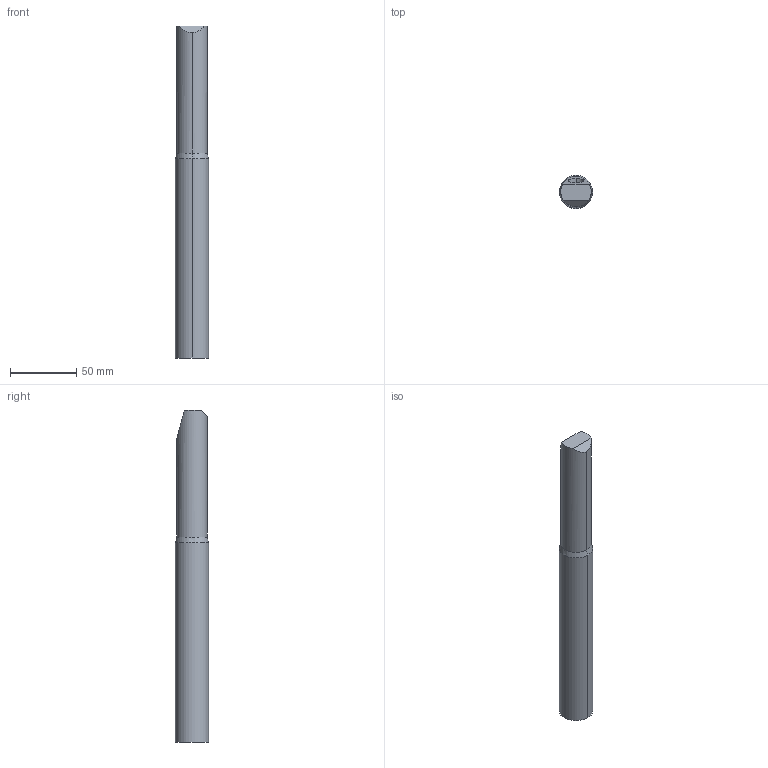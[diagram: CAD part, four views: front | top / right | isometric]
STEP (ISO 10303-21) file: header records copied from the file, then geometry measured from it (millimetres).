
FILE_DESCRIPTION( (''), '2;1');
FILE_NAME ('SY-2080-04_TH-25251-B.stp','2022-04-09T08:52:20',(''),(''),'spGate 18.9.3 (****-****-****-****)','','');
FILE_SCHEMA (('AUTOMOTIVE_DESIGN'));
Length unit declared in the file: millimetre
Products named in the file (2): Assembly; SY-2080-04_TH-25251-B-prt0
Assembly tree (1 placements, depth 2):
  Assembly
    SY-2080-04_TH-25251-B-prt0
Bounding box: 25 x 25 x 250 mm (x, y, z)
Volume: 96428.7 mm3; surface area: 26981.5 mm2
Topology: 1 solids, 1 shells, 25 faces, 54 edges, 30 vertices
Faces by surface type: bspline 12, cylinder 8, plane 5
Entity records: 1174 total; most frequent: CARTESIAN_POINT 257, ORIENTED_EDGE 100, DIRECTION 84, COLOUR_RGB 76, PRESENTATION_STYLE_ASSIGNMENT 76, STYLED_ITEM 76, EDGE_CURVE 50, DRAUGHTING_PRE_DEFINED_CURVE_FONT 50
